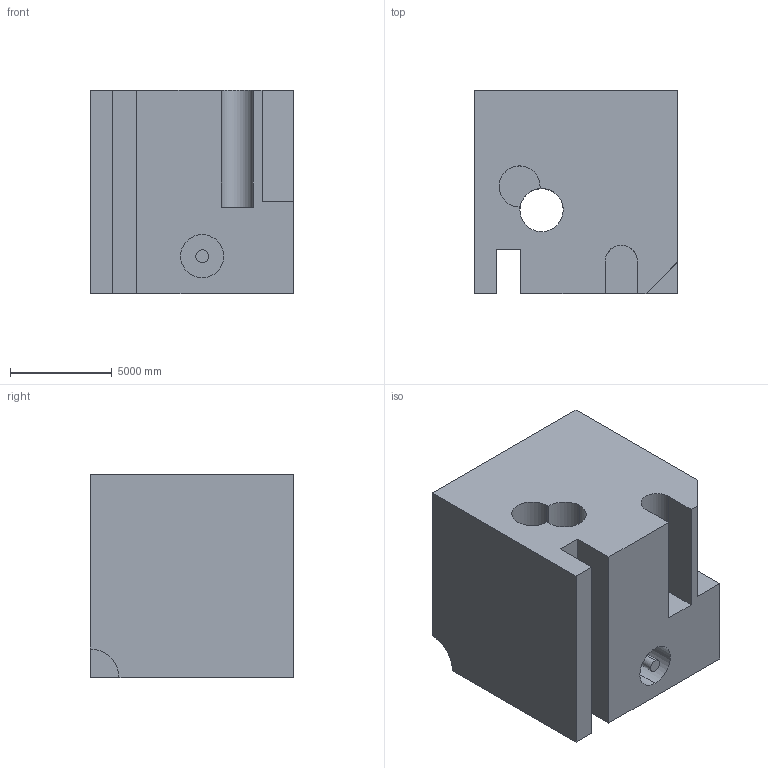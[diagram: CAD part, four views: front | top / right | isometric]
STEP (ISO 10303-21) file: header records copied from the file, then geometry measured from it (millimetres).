
FILE_DESCRIPTION (( 'STEP AP203' ), '1' );
FILE_NAME ('152.STEP', '2022-08-31T14:24:48', ( 'user' ), ( '' ), 'SwSTEP 2.0', 'SolidWorks 2021', '' );
FILE_SCHEMA (( 'CONFIG_CONTROL_DESIGN' ));
Length unit declared in the file: centimetre
Products named in the file (1): 152
Bounding box: 10000 x 10000 x 10000 mm (x, y, z)
Volume: 861764543080.2 mm3; surface area: 784939740.2 mm2
Topology: 1 solids, 1 shells, 36 faces, 99 edges, 66 vertices
Faces by surface type: plane 22, cylinder 14
Entity records: 1288 total; most frequent: CARTESIAN_POINT 257, DIRECTION 203, ORIENTED_EDGE 198, EDGE_CURVE 99, AXIS2_PLACEMENT_3D 68, VECTOR 67, LINE 67, VERTEX_POINT 66
